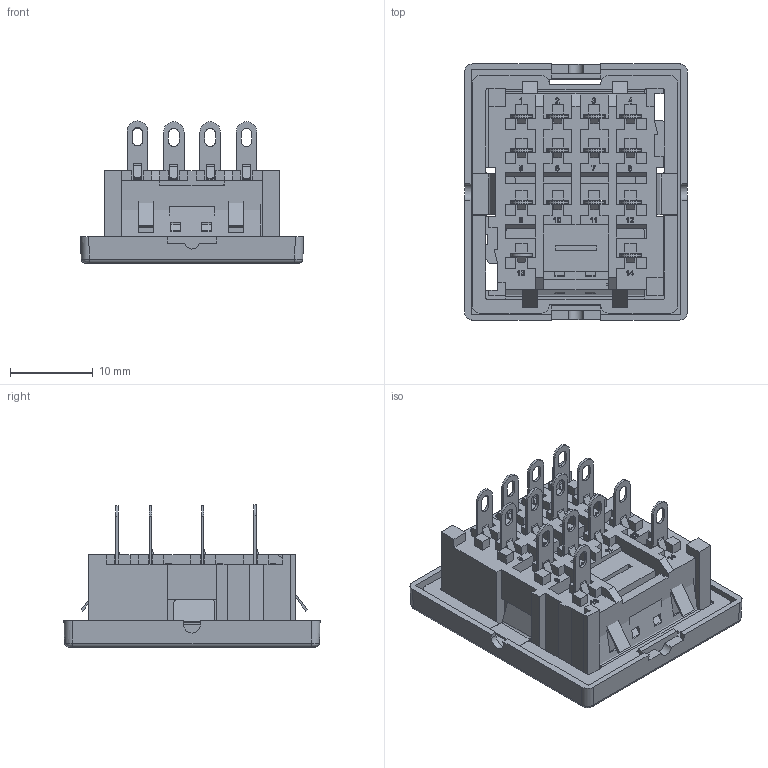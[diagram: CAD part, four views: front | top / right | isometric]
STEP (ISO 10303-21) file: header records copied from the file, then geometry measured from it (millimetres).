
FILE_DESCRIPTION(/* description */ (''),/* implementation_level */ '2;1');
FILE_NAME(/* name */ '18F-4Z-A.stp',/* time_stamp */ '2019-03-20T14:24:40+08:00',/* author */ (''),/* organization */ (''),/* preprocessor_version */ 'ST-DEVELOPER v16.7',/* originating_system */ 'SIEMENS PLM Software NX 12.0',/* authorisation */ '');
FILE_SCHEMA (('AUTOMOTIVE_DESIGN { 1 0 10303 214 3 1 1 1 }'));
Length unit declared in the file: millimetre
Products named in the file (4): HT7.730.002; HT7.730.098; HT7.810.032; 18F-4Z-A
Assembly tree (16 placements, depth 2):
  18F-4Z-A
    HT7.810.032
    HT7.730.098  x14
    HT7.730.002
Bounding box: 27 x 31 x 17.2 mm (x, y, z)
Volume: 4586.7 mm3; surface area: 9596.6 mm2
Topology: 17 solids, 17 shells, 2473 faces, 6715 edges, 4308 vertices
Faces by surface type: plane 1808, cylinder 484, extrusion 85, bspline 40, sphere 28, torus 28
Entity records: 52750 total; most frequent: CARTESIAN_POINT 10254, ORIENTED_EDGE 7650, DIRECTION 6476, EDGE_CURVE 3825, VECTOR 3186, LINE 3127, VERTEX_POINT 2460, AXIS2_PLACEMENT_3D 1645
